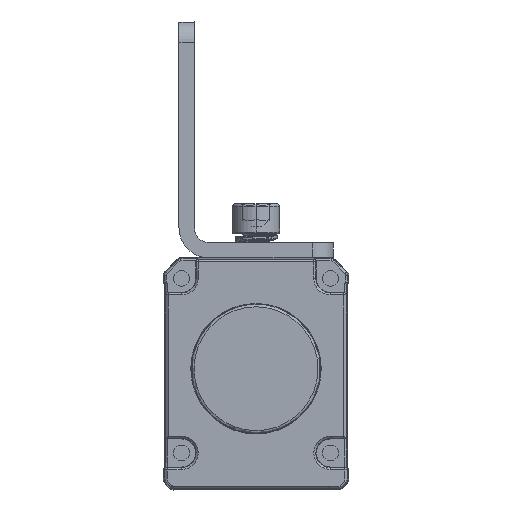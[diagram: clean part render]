
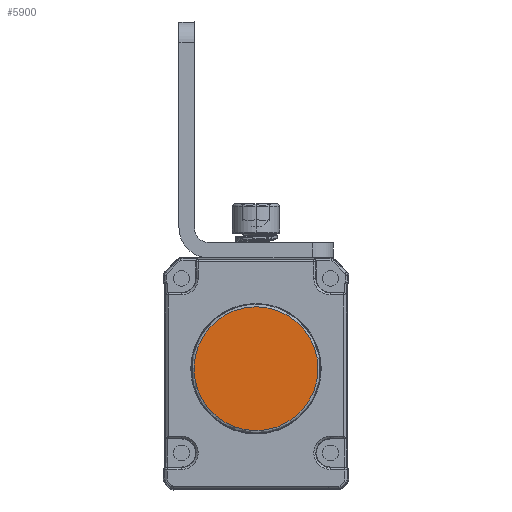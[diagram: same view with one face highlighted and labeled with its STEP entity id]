
A CAD part, front view. The second image highlights one B-rep face of the part: STEP entity #5900.
In plain terms, the highlighted planar face has unit normal (0, -1, 0) as drawn and (0, 1, 0) by its records, which use the part's own axes.
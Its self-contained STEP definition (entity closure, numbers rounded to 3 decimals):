
#3253=CARTESIAN_POINT('',(298.137,272.441,-93.947));
#3254=DIRECTION('',(0.,1.,0.));
#3255=DIRECTION('',(-1.,0.,-0.007));
#3256=AXIS2_PLACEMENT_3D('',#3253,#3254,#3255);
#3258=CARTESIAN_POINT('',(298.137,272.441,-93.947));
#3259=DIRECTION('',(0.,1.,0.));
#3260=DIRECTION('',(1.,0.,-0.001));
#3261=AXIS2_PLACEMENT_3D('',#3258,#3259,#3260);
#3263=CARTESIAN_POINT('',(298.137,272.441,-93.947));
#3264=DIRECTION('',(0.,1.,0.));
#3265=DIRECTION('',(1.,0.,0.007));
#3266=AXIS2_PLACEMENT_3D('',#3263,#3264,#3265);
#3268=CARTESIAN_POINT('',(298.137,272.441,-93.947));
#3269=DIRECTION('',(0.,1.,0.));
#3270=DIRECTION('',(-1.,0.,0.001));
#3271=AXIS2_PLACEMENT_3D('',#3268,#3269,#3270);
#3351=CARTESIAN_POINT('',(286.082,272.441,-94.027));
#3352=CARTESIAN_POINT('',(286.082,272.441,-93.939));
#3353=VERTEX_POINT('',#3351);
#3354=VERTEX_POINT('',#3352);
#3418=CARTESIAN_POINT('',(310.193,272.441,-93.955));
#3419=VERTEX_POINT('',#3418);
#3521=CARTESIAN_POINT('',(310.193,272.441,-93.867));
#3522=VERTEX_POINT('',#3521);
#5889=CARTESIAN_POINT('',(298.533,272.441,-94.753));
#5890=DIRECTION('',(0.,1.,0.));
#5891=DIRECTION('',(1.,0.,-0.001));
#5892=AXIS2_PLACEMENT_3D('',#5889,#5890,#5891);
#5893=PLANE('',#5892);
#5894=ORIENTED_EDGE('',*,*,#5866,.F.);
#5895=ORIENTED_EDGE('',*,*,#5880,.F.);
#5896=ORIENTED_EDGE('',*,*,#5878,.F.);
#5897=ORIENTED_EDGE('',*,*,#5868,.F.);
#5898=EDGE_LOOP('',(#5894,#5895,#5896,#5897));
#5899=FACE_OUTER_BOUND('',#5898,.F.);
#5900=ADVANCED_FACE('',(#5899),#5893,.T.);
#3257=CIRCLE('',#3256,12.056);
#3262=CIRCLE('',#3261,12.056);
#3267=CIRCLE('',#3266,12.056);
#3272=CIRCLE('',#3271,12.056);
#5866=EDGE_CURVE('',#3353,#3354,#3257,.T.);
#5868=EDGE_CURVE('',#3354,#3522,#3272,.T.);
#5878=EDGE_CURVE('',#3522,#3419,#3267,.T.);
#5880=EDGE_CURVE('',#3419,#3353,#3262,.T.);
